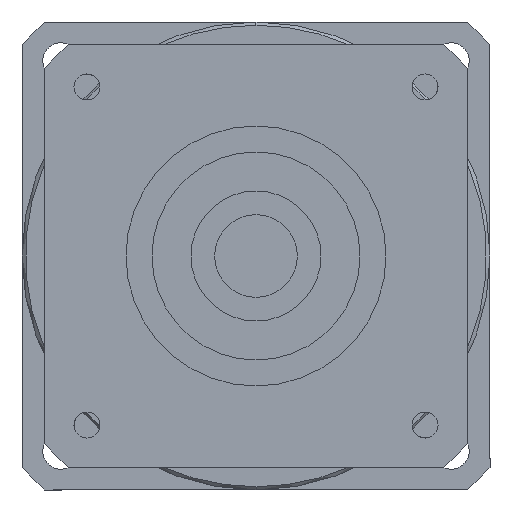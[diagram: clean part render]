
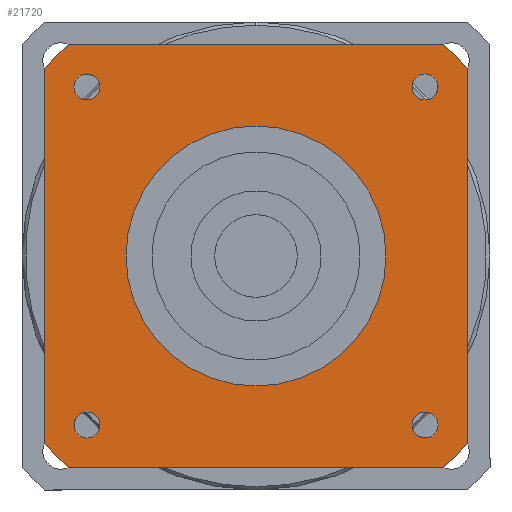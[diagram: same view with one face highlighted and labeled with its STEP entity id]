
A CAD part, left-side view. The second image highlights one B-rep face of the part: STEP entity #21720.
In plain terms, the highlighted planar face has unit normal (-1, 0, 0) as drawn and (0, 0, -1) by its records, which use the part's own axes.
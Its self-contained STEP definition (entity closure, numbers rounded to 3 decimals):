
#15410=CARTESIAN_POINT('',(28.914,32.5,-91.));
#15420=VERTEX_POINT('',#15410);
#15450=CARTESIAN_POINT('',(0.,0.,
-91.));
#15460=DIRECTION('',(0.,0.,1.));
#15470=DIRECTION('',(0.,-1.,0.));
#15480=AXIS2_PLACEMENT_3D('',#15450,#15460,#15470);
#15490=CIRCLE('',#15480,43.5);
#15500=CARTESIAN_POINT('',(32.5,28.914,-91.));
#15510=VERTEX_POINT('',#15500);
#15520=EDGE_CURVE('',#15510,#15420,#15490,.T.);
#18330=CARTESIAN_POINT('',(-28.914,32.5,-91.));
#18340=VERTEX_POINT('',#18330);
#18420=CARTESIAN_POINT('',(-32.5,28.914,-91.));
#18430=VERTEX_POINT('',#18420);
#18460=CARTESIAN_POINT('',(0.,0.,
-91.));
#18470=DIRECTION('',(0.,0.,1.));
#18480=DIRECTION('',(0.,-1.,0.));
#18490=AXIS2_PLACEMENT_3D('',#18460,#18470,#18480);
#18500=CIRCLE('',#18490,43.5);
#18510=EDGE_CURVE('',#18340,#18430,#18500,.T.);
#19020=CARTESIAN_POINT('',(-32.5,-28.914,-91.));
#19030=VERTEX_POINT('',#19020);
#19110=CARTESIAN_POINT('',(-28.914,-32.5,-91.));
#19120=VERTEX_POINT('',#19110);
#19150=CARTESIAN_POINT('',(0.,0.,
-91.));
#19160=DIRECTION('',(0.,0.,1.));
#19170=DIRECTION('',(0.,-1.,0.));
#19180=AXIS2_PLACEMENT_3D('',#19150,#19160,#19170);
#19190=CIRCLE('',#19180,43.5);
#19200=EDGE_CURVE('',#19030,#19120,#19190,.T.);
#19670=CARTESIAN_POINT('',(28.914,-32.5,-91.));
#19680=VERTEX_POINT('',#19670);
#19760=CARTESIAN_POINT('',(32.5,-28.914,-91.));
#19770=VERTEX_POINT('',#19760);
#19800=CARTESIAN_POINT('',(0.,0.,
-91.));
#19810=DIRECTION('',(0.,0.,1.));
#19820=DIRECTION('',(0.,-1.,0.));
#19830=AXIS2_PLACEMENT_3D('',#19800,#19810,#19820);
#19840=CIRCLE('',#19830,43.5);
#19850=EDGE_CURVE('',#19680,#19770,#19840,.T.);
#20000=CARTESIAN_POINT('',(32.5,-32.5,-91.));
#20010=DIRECTION('',(0.,1.,0.));
#20020=VECTOR('',#20010,1000.);
#20030=LINE('',#20000,#20020);
#20040=EDGE_CURVE('',#19770,#15510,#20030,.T.);
#20190=CARTESIAN_POINT('',(32.5,32.5,-91.));
#20200=DIRECTION('',(-1.,0.,0.));
#20210=VECTOR('',#20200,1000.);
#20220=LINE('',#20190,#20210);
#20230=EDGE_CURVE('',#15420,#18340,#20220,.T.);
#20370=CARTESIAN_POINT('',(-26.,24.,-91.));
#20380=VERTEX_POINT('',#20370);
#20470=CARTESIAN_POINT('',(-26.,28.,-91.));
#20480=VERTEX_POINT('',#20470);
#20510=CARTESIAN_POINT('',(-26.,26.,-91.));
#20520=DIRECTION('',(0.,0.,-1.));
#20530=DIRECTION('',(-1.,0.,0.));
#20540=AXIS2_PLACEMENT_3D('',#20510,#20520,#20530);
#20550=CIRCLE('',#20540,2.);
#20560=CARTESIAN_POINT('',(-28.,26.,-91.));
#20570=VERTEX_POINT('',#20560);
#20580=EDGE_CURVE('',#20570,#20480,#20550,.T.);
#20600=EDGE_CURVE('',#20380,#20570,#20550,.T.);
#20650=CARTESIAN_POINT('',(-32.5,32.5,-91.));
#20660=DIRECTION('',(0.,0.,1.));
#20670=DIRECTION('',(-1.,0.,0.));
#20680=AXIS2_PLACEMENT_3D('',#20650,#20660,#20670);
#20690=PLANE('',#20680);
#20700=CARTESIAN_POINT('',(26.,-26.,-91.));
#20710=DIRECTION('',(0.,0.,-1.));
#20720=DIRECTION('',(1.,0.,0.));
#20730=AXIS2_PLACEMENT_3D('',#20700,#20710,#20720);
#20740=CIRCLE('',#20730,2.);
#20750=CARTESIAN_POINT('',(28.,-26.,-91.));
#20760=VERTEX_POINT('',#20750);
#20770=CARTESIAN_POINT('',(26.,-28.,-91.));
#20780=VERTEX_POINT('',#20770);
#20790=EDGE_CURVE('',#20760,#20780,#20740,.T.);
#20800=ORIENTED_EDGE('',*,*,#20790,.F.);
#20810=CARTESIAN_POINT('',(26.,-24.,-91.));
#20820=VERTEX_POINT('',#20810);
#20830=EDGE_CURVE('',#20780,#20820,#20740,.T.);
#20840=ORIENTED_EDGE('',*,*,#20830,.F.);
#20850=EDGE_CURVE('',#20820,#20760,#20740,.T.);
#20860=ORIENTED_EDGE('',*,*,#20850,.F.);
#20870=EDGE_LOOP('',(#20860,#20840,#20800));
#20880=FACE_BOUND('',#20870,.T.);
#20890=CARTESIAN_POINT('',(26.,26.,-91.));
#20900=DIRECTION('',(0.,0.,-1.));
#20910=DIRECTION('',(0.,1.,0.));
#20920=AXIS2_PLACEMENT_3D('',#20890,#20900,#20910);
#20930=CIRCLE('',#20920,2.);
#20940=CARTESIAN_POINT('',(26.,28.,-91.));
#20950=VERTEX_POINT('',#20940);
#20960=CARTESIAN_POINT('',(28.,26.,-91.));
#20970=VERTEX_POINT('',#20960);
#20980=EDGE_CURVE('',#20950,#20970,#20930,.T.);
#20990=ORIENTED_EDGE('',*,*,#20980,.F.);
#21000=CARTESIAN_POINT('',(24.,26.,-91.));
#21010=VERTEX_POINT('',#21000);
#21020=EDGE_CURVE('',#20970,#21010,#20930,.T.);
#21030=ORIENTED_EDGE('',*,*,#21020,.F.);
#21040=EDGE_CURVE('',#21010,#20950,#20930,.T.);
#21050=ORIENTED_EDGE('',*,*,#21040,.F.);
#21060=EDGE_LOOP('',(#21050,#21030,#20990));
#21070=FACE_BOUND('',#21060,.T.);
#21080=ORIENTED_EDGE('',*,*,#20580,.F.);
#21090=EDGE_CURVE('',#20480,#20380,#20550,.T.);
#21100=ORIENTED_EDGE('',*,*,#21090,.F.);
#21110=ORIENTED_EDGE('',*,*,#20600,.F.);
#21120=EDGE_LOOP('',(#21110,#21100,#21080));
#21130=FACE_BOUND('',#21120,.T.);
#21140=CARTESIAN_POINT('',(-26.,-26.,-91.));
#21150=DIRECTION('',(0.,0.,-1.));
#21160=DIRECTION('',(0.,-1.,0.));
#21170=AXIS2_PLACEMENT_3D('',#21140,#21150,#21160);
#21180=CIRCLE('',#21170,2.);
#21190=CARTESIAN_POINT('',(-26.,-28.,-91.));
#21200=VERTEX_POINT('',#21190);
#21210=CARTESIAN_POINT('',(-28.,-26.,-91.));
#21220=VERTEX_POINT('',#21210);
#21230=EDGE_CURVE('',#21200,#21220,#21180,.T.);
#21240=ORIENTED_EDGE('',*,*,#21230,.F.);
#21250=CARTESIAN_POINT('',(-24.,-26.,-91.));
#21260=VERTEX_POINT('',#21250);
#21270=EDGE_CURVE('',#21220,#21260,#21180,.T.);
#21280=ORIENTED_EDGE('',*,*,#21270,.F.);
#21290=EDGE_CURVE('',#21260,#21200,#21180,.T.);
#21300=ORIENTED_EDGE('',*,*,#21290,.F.);
#21310=EDGE_LOOP('',(#21300,#21280,#21240));
#21320=FACE_BOUND('',#21310,.T.);
#21330=ORIENTED_EDGE('',*,*,#19200,.F.);
#21340=CARTESIAN_POINT('',(-32.5,-32.5,-91.));
#21350=DIRECTION('',(1.,0.,0.));
#21360=VECTOR('',#21350,1000.);
#21370=LINE('',#21340,#21360);
#21380=EDGE_CURVE('',#19120,#19680,#21370,.T.);
#21390=ORIENTED_EDGE('',*,*,#21380,.F.);
#21400=ORIENTED_EDGE('',*,*,#19850,.F.);
#21410=ORIENTED_EDGE('',*,*,#20040,.F.);
#21420=ORIENTED_EDGE('',*,*,#15520,.F.);
#21430=ORIENTED_EDGE('',*,*,#20230,.F.);
#21440=ORIENTED_EDGE('',*,*,#18510,.F.);
#21450=CARTESIAN_POINT('',(-32.5,32.5,-91.));
#21460=DIRECTION('',(0.,-1.,0.));
#21470=VECTOR('',#21460,1000.);
#21480=LINE('',#21450,#21470);
#21490=EDGE_CURVE('',#18430,#19030,#21480,.T.);
#21500=ORIENTED_EDGE('',*,*,#21490,.F.);
#21510=EDGE_LOOP('',(#21500,#21440,#21430,#21420,#21410,#21400,#21390,
#21330));
#21520=FACE_OUTER_BOUND('',#21510,.T.);
#21530=CARTESIAN_POINT('',(0.,0.,
-91.));
#21540=DIRECTION('',(0.,0.,1.));
#21550=DIRECTION('',(0.,-1.,0.));
#21560=AXIS2_PLACEMENT_3D('',#21530,#21540,#21550);
#21570=CIRCLE('',#21560,20.);
#21580=CARTESIAN_POINT('',(20.,0.,-91.));
#21590=VERTEX_POINT('',#21580);
#21600=CARTESIAN_POINT('',(-20.,0.,-91.));
#21610=VERTEX_POINT('',#21600);
#21620=EDGE_CURVE('',#21590,#21610,#21570,.T.);
#21630=ORIENTED_EDGE('',*,*,#21620,.T.);
#21640=CARTESIAN_POINT('',(0.,-20.,-91.));
#21650=VERTEX_POINT('',#21640);
#21660=EDGE_CURVE('',#21650,#21590,#21570,.T.);
#21670=ORIENTED_EDGE('',*,*,#21660,.T.);
#21680=EDGE_CURVE('',#21610,#21650,#21570,.T.);
#21690=ORIENTED_EDGE('',*,*,#21680,.T.);
#21700=EDGE_LOOP('',(#21690,#21670,#21630));
#21710=FACE_BOUND('',#21700,.T.);
#21720=ADVANCED_FACE('',(#20880,#21070,#21130,#21320,#21520,#21710),
#20690,.F.);
